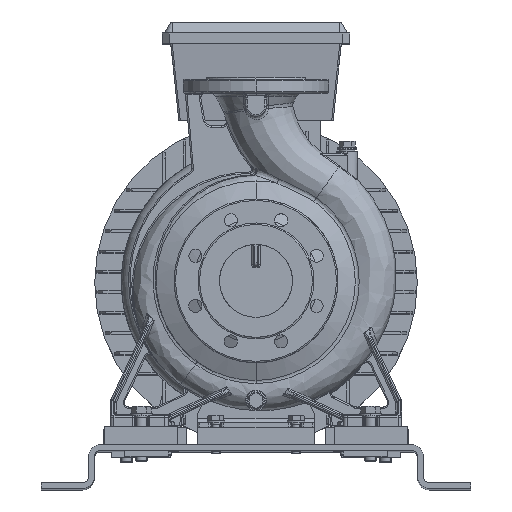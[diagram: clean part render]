
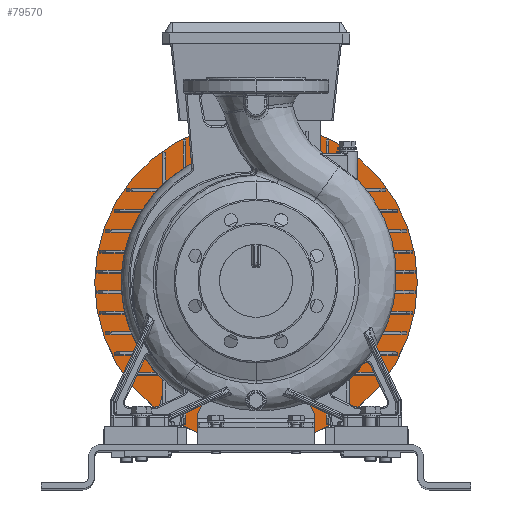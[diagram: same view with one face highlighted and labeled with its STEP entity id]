
A CAD part, top view. The second image highlights one B-rep face of the part: STEP entity #79570.
In plain terms, the highlighted planar face has unit normal (0, 0, 1) as drawn and (0, -1, 0) by its records, which use the part's own axes.
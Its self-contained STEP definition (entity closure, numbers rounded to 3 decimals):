
#70862=CARTESIAN_POINT('',(0.,513.4,0.));
#70863=DIRECTION('',(0.,1.,0.));
#70864=DIRECTION('',(-1.,0.,0.));
#70865=AXIS2_PLACEMENT_3D('',#70862,#70863,#70864);
#70870=CARTESIAN_POINT('',(0.,513.4,0.));
#70871=DIRECTION('',(0.,-1.,0.));
#70872=DIRECTION('',(-1.,0.,0.));
#70873=AXIS2_PLACEMENT_3D('',#70870,#70871,#70872);
#71426=CARTESIAN_POINT('',(0.,513.4,0.));
#71427=DIRECTION('',(0.,-1.,0.));
#71428=DIRECTION('',(-1.,0.,0.));
#71429=AXIS2_PLACEMENT_3D('',#71426,#71427,#71428);
#72655=CARTESIAN_POINT('',(0.,513.4,0.));
#72656=DIRECTION('',(0.,1.,0.));
#72657=DIRECTION('',(-1.,0.,0.));
#72658=AXIS2_PLACEMENT_3D('',#72655,#72656,#72657);
#78105=CARTESIAN_POINT('',(-221.5,513.4,0.));
#78107=VERTEX_POINT('',#78105);
#78113=CARTESIAN_POINT('',(221.5,513.4,0.));
#78115=VERTEX_POINT('',#78113);
#78120=CARTESIAN_POINT('',(-185.,513.4,0.));
#78121=CARTESIAN_POINT('',(185.,513.4,0.));
#78122=VERTEX_POINT('',#78120);
#78123=VERTEX_POINT('',#78121);
#79555=CARTESIAN_POINT('',(0.,513.4,0.));
#79556=DIRECTION('',(0.,-1.,0.));
#79557=DIRECTION('',(-1.,0.,0.));
#79558=AXIS2_PLACEMENT_3D('',#79555,#79556,#79557);
#79559=PLANE('',#79558);
#79560=ORIENTED_EDGE('',*,*,#79537,.T.);
#79561=ORIENTED_EDGE('',*,*,#79548,.F.);
#79562=EDGE_LOOP('',(#79560,#79561));
#79563=FACE_OUTER_BOUND('',#79562,.F.);
#79565=ORIENTED_EDGE('',*,*,#79564,.T.);
#79567=ORIENTED_EDGE('',*,*,#79566,.F.);
#79568=EDGE_LOOP('',(#79565,#79567));
#79569=FACE_BOUND('',#79568,.F.);
#70866=CIRCLE('',#70865,221.5);
#70874=CIRCLE('',#70873,221.5);
#71430=CIRCLE('',#71429,185.);
#72659=CIRCLE('',#72658,185.);
#79537=EDGE_CURVE('',#78107,#78115,#70866,.T.);
#79548=EDGE_CURVE('',#78107,#78115,#70874,.T.);
#79564=EDGE_CURVE('',#78122,#78123,#71430,.T.);
#79566=EDGE_CURVE('',#78122,#78123,#72659,.T.);
#79570=ADVANCED_FACE('',(#79563,#79569),#79559,.T.);
